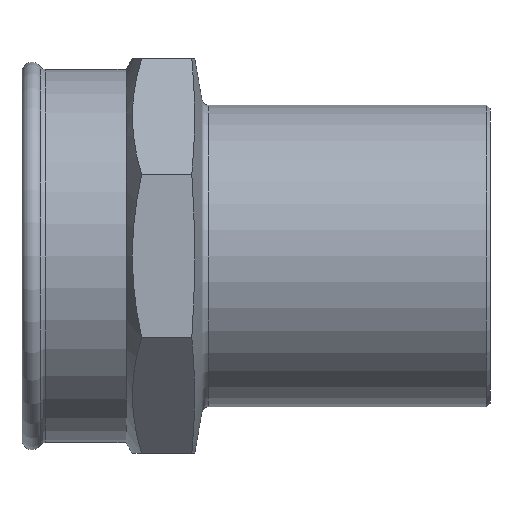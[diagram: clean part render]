
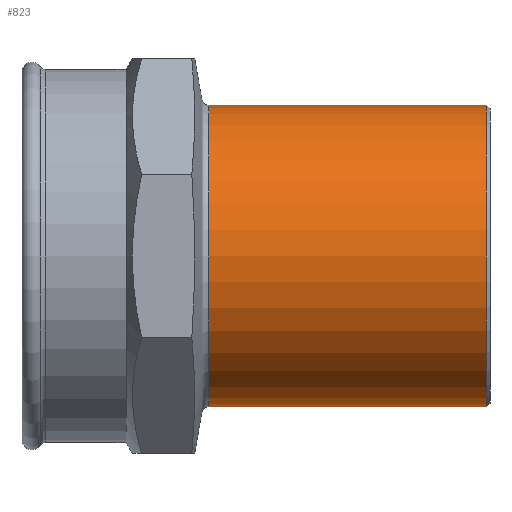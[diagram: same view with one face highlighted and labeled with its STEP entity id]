
A CAD part, left-side view. The second image highlights one B-rep face of the part: STEP entity #823.
In plain terms, the highlighted cylindrical face has radius 21 mm (diameter 42 mm), a partial arc.
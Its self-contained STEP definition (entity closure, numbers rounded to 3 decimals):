
#40 = CARTESIAN_POINT ( 'NONE',  ( 0., 0.5, 0. ) ) ;
#44 = DIRECTION ( 'NONE',  ( 0., -1., 0. ) ) ;
#59 = CARTESIAN_POINT ( 'NONE',  ( 0., 0.5, -21. ) ) ;
#60 = DIRECTION ( 'NONE',  ( 0., 0., -1. ) ) ;
#110 = ORIENTED_EDGE ( 'NONE', *, *, #373, .T. ) ;
#122 = CIRCLE ( 'NONE', #274, 21. ) ;
#132 = CYLINDRICAL_SURFACE ( 'NONE', #306, 21. ) ;
#150 = DIRECTION ( 'NONE',  ( 0., -1., 0. ) ) ;
#178 = VERTEX_POINT ( 'NONE', #244 ) ;
#201 = CARTESIAN_POINT ( 'NONE',  ( 0., 39.161, 21. ) ) ;
#244 = CARTESIAN_POINT ( 'NONE',  ( 0., 39.161, -21. ) ) ;
#274 = AXIS2_PLACEMENT_3D ( 'NONE', #680, #150, #560 ) ;
#289 = VERTEX_POINT ( 'NONE', #806 ) ;
#306 = AXIS2_PLACEMENT_3D ( 'NONE', #1028, #991, #956 ) ;
#345 = CARTESIAN_POINT ( 'NONE',  ( 0., -17.811, -21. ) ) ;
#373 = EDGE_CURVE ( 'NONE', #936, #178, #122, .T. ) ;
#388 = CARTESIAN_POINT ( 'NONE',  ( 0., -17.811, 21. ) ) ;
#449 = EDGE_CURVE ( 'NONE', #178, #830, #1087, .T. ) ;
#458 = ORIENTED_EDGE ( 'NONE', *, *, #863, .F. ) ;
#481 = DIRECTION ( 'NONE',  ( 0., -1., 0. ) ) ;
#548 = VECTOR ( 'NONE', #481, 1000. ) ;
#560 = DIRECTION ( 'NONE',  ( 0., 0., -1. ) ) ;
#654 = FACE_OUTER_BOUND ( 'NONE', #1083, .T. ) ;
#674 = ORIENTED_EDGE ( 'NONE', *, *, #679, .F. ) ;
#679 = EDGE_CURVE ( 'NONE', #289, #830, #707, .T. ) ;
#680 = CARTESIAN_POINT ( 'NONE',  ( 0., 39.161, 0. ) ) ;
#707 = CIRCLE ( 'NONE', #967, 21. ) ;
#740 = DIRECTION ( 'NONE',  ( 0., -1., 0. ) ) ;
#777 = LINE ( 'NONE', #388, #802 ) ;
#778 = ORIENTED_EDGE ( 'NONE', *, *, #449, .T. ) ;
#802 = VECTOR ( 'NONE', #740, 1000. ) ;
#806 = CARTESIAN_POINT ( 'NONE',  ( 0., 0.5, 21. ) ) ;
#823 = ADVANCED_FACE ( 'NONE', ( #654 ), #132, .T. ) ;
#830 = VERTEX_POINT ( 'NONE', #59 ) ;
#863 = EDGE_CURVE ( 'NONE', #936, #289, #777, .T. ) ;
#936 = VERTEX_POINT ( 'NONE', #201 ) ;
#956 = DIRECTION ( 'NONE',  ( 0., 0., -1. ) ) ;
#967 = AXIS2_PLACEMENT_3D ( 'NONE', #40, #44, #60 ) ;
#991 = DIRECTION ( 'NONE',  ( 0., -1., 0. ) ) ;
#1028 = CARTESIAN_POINT ( 'NONE',  ( 0., -17.811, 0. ) ) ;
#1083 = EDGE_LOOP ( 'NONE', ( #458, #110, #778, #674 ) ) ;
#1087 = LINE ( 'NONE', #345, #548 ) ;
